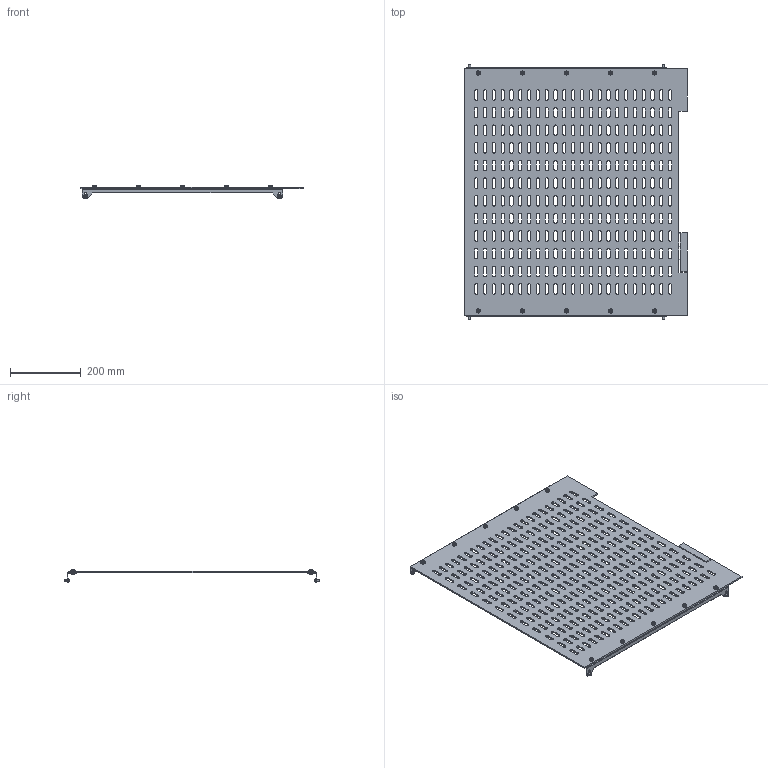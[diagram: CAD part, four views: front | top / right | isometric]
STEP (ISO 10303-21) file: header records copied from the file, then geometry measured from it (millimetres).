
FILE_DESCRIPTION (( 'STEP AP214' ), '1' );
FILE_NAME ('FO-00-3BEFW-080-060 Êîìïëåêò ñåêöèîíèðîâàíèÿ 3b äëÿ ARMAT ACB òèïîðàçìåð EIIF âûêàòíîãî èñïîëíåíèÿ 3II4P 800õ600 â øêàô ãëóáèíîé 1000 ìì.STEP', '2025-08-12T07:27:10', ( '' ), ( '' ), 'SwSTEP 2.0', 'SolidWorks 2023', '' );
FILE_SCHEMA (( 'AUTOMOTIVE_DESIGN' ));
Length unit declared in the file: millimetre
Products named in the file (3): Комплект секционирования 3b для ARMAT ACB типоразмер EIIF выкатного исполнения 3II4P 800х600 в шкаф глубиной 1000 мм; FO-00-3BEFW-080-060 Комплект секционирования 3b для ARMAT ACB типоразмер EIIF выкатного исполнения 3II4P 800х600 в шкаф глубиной 1000 мм; 2хМ6х10x800
Assembly tree (3 placements, depth 2):
  FO-00-3BEFW-080-060 Комплект секционирования 3b для ARMAT ACB типоразмер EIIF выкатного исполнения 3II4P 800х600 в шкаф глубиной 1000 мм
    Комплект секционирования 3b для ARMAT ACB типоразмер EIIF выкатного исполнения 3II4P 800х600 в шкаф глубиной 1000 мм
    2хМ6х10x800  x2
Bounding box: 630 x 725 x 37 mm (x, y, z)
Volume: 1525864.7 mm3; surface area: 860825.5 mm2
Topology: 5 solids, 15 shells, 1662 faces, 4686 edges, 3088 vertices
Faces by surface type: cylinder 870, plane 688, cone 48, torus 48, sphere 8
Entity records: 53901 total; most frequent: DIRECTION 9508, CARTESIAN_POINT 9294, ORIENTED_EDGE 9096, EDGE_CURVE 4548, AXIS2_PLACEMENT_3D 3382, VERTEX_POINT 3000, VECTOR 2744, LINE 2744
